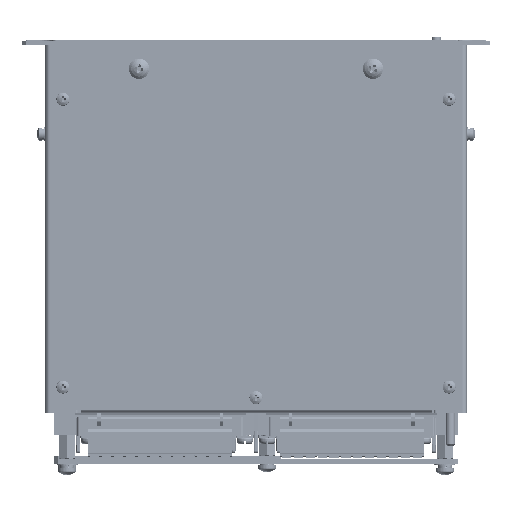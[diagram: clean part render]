
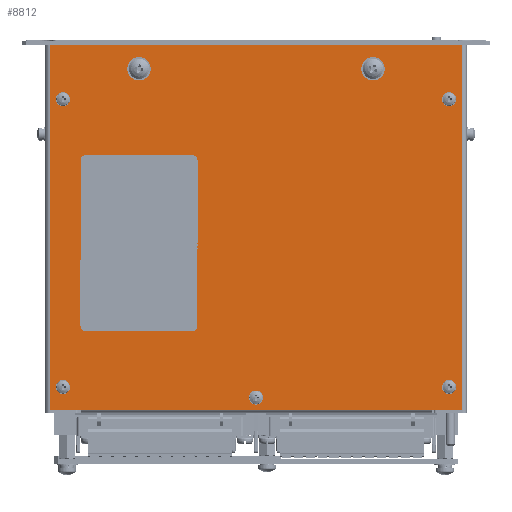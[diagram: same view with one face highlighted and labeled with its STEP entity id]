
A CAD part, left-side view. The second image highlights one B-rep face of the part: STEP entity #8812.
In plain terms, the highlighted planar face has unit normal (-1, 0, 0) as drawn and (0, 0, 1) by its records, which use the part's own axes.
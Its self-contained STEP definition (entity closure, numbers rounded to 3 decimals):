
#8812=ADVANCED_FACE('',(#284944,#284946,#284948,#284950,#284952,#284954,#284956,
#284958),#284960,.T.);
#284944=FACE_BOUND('',#284945,.T.);
#284945=EDGE_LOOP('',(#518910,#518911,#518912,#518913));
#284946=FACE_BOUND('',#284947,.T.);
#284947=EDGE_LOOP('',(#518914));
#284948=FACE_BOUND('',#284949,.T.);
#284949=EDGE_LOOP('',(#518915));
#284950=FACE_BOUND('',#284951,.T.);
#284951=EDGE_LOOP('',(#518916));
#284952=FACE_BOUND('',#284953,.T.);
#284953=EDGE_LOOP('',(#518917));
#284954=FACE_BOUND('',#284955,.T.);
#284955=EDGE_LOOP('',(#518918));
#284956=FACE_BOUND('',#284957,.T.);
#284957=EDGE_LOOP('',(#518919));
#284958=FACE_BOUND('',#284959,.T.);
#284959=EDGE_LOOP('',(#518920));
#284960=PLANE('',#284961);
#284961=AXIS2_PLACEMENT_3D('',#284962,#284963,#284964);
#284962=CARTESIAN_POINT('',(0.,0.,1.));
#284963=DIRECTION('',(0.,0.,1.));
#284964=DIRECTION('',(1.,0.,0.));
#518910=ORIENTED_EDGE('',*,*,#710000,.T.);
#518911=ORIENTED_EDGE('',*,*,#710001,.T.);
#518912=ORIENTED_EDGE('',*,*,#710002,.T.);
#518913=ORIENTED_EDGE('',*,*,#710003,.T.);
#518914=ORIENTED_EDGE('',*,*,#710004,.T.);
#518915=ORIENTED_EDGE('',*,*,#710005,.T.);
#518916=ORIENTED_EDGE('',*,*,#710006,.T.);
#518917=ORIENTED_EDGE('',*,*,#710007,.T.);
#518918=ORIENTED_EDGE('',*,*,#710008,.T.);
#518919=ORIENTED_EDGE('',*,*,#710009,.T.);
#518920=ORIENTED_EDGE('',*,*,#710010,.T.);
#710000=EDGE_CURVE('',#801376,#801377,#801378,.T.);
#710001=EDGE_CURVE('',#801377,#801379,#801380,.T.);
#710002=EDGE_CURVE('',#801379,#801381,#801382,.T.);
#710003=EDGE_CURVE('',#801381,#801376,#801383,.T.);
#710004=EDGE_CURVE('',#801384,#801384,#801385,.F.);
#710005=EDGE_CURVE('',#801386,#801386,#801387,.F.);
#710006=EDGE_CURVE('',#801388,#801388,#801389,.F.);
#710007=EDGE_CURVE('',#801390,#801390,#801391,.F.);
#710008=EDGE_CURVE('',#801392,#801392,#801393,.F.);
#710009=EDGE_CURVE('',#801394,#801394,#801395,.F.);
#710010=EDGE_CURVE('',#801396,#801396,#801397,.F.);
#801376=VERTEX_POINT('',#952565);
#801377=VERTEX_POINT('',#952566);
#801378=LINE('',#952567,#952568);
#801379=VERTEX_POINT('',#952570);
#801380=LINE('',#952571,#952572);
#801381=VERTEX_POINT('',#952574);
#801382=LINE('',#952575,#952576);
#801383=LINE('',#952578,#952579);
#801384=VERTEX_POINT('',#952581);
#801385=CIRCLE('',#952582,1.75);
#801386=VERTEX_POINT('',#952586);
#801387=CIRCLE('',#952587,2.25);
#801388=VERTEX_POINT('',#952591);
#801389=CIRCLE('',#952592,2.25);
#801390=VERTEX_POINT('',#952596);
#801391=CIRCLE('',#952597,1.75);
#801392=VERTEX_POINT('',#952601);
#801393=CIRCLE('',#952602,1.75);
#801394=VERTEX_POINT('',#952606);
#801395=CIRCLE('',#952607,1.75);
#801396=VERTEX_POINT('',#952611);
#801397=CIRCLE('',#952612,1.75);
#952565=CARTESIAN_POINT('',(78.,88.,1.));
#952566=CARTESIAN_POINT('',(-78.,88.,1.));
#952567=CARTESIAN_POINT('',(78.,88.,1.));
#952568=VECTOR('',#952569,1.);
#952569=DIRECTION('',(-1.,0.,0.));
#952570=CARTESIAN_POINT('',(-78.,-88.,1.));
#952571=CARTESIAN_POINT('',(-78.,88.,1.));
#952572=VECTOR('',#952573,1.);
#952573=DIRECTION('',(0.,-1.,0.));
#952574=CARTESIAN_POINT('',(78.,-88.,1.));
#952575=CARTESIAN_POINT('',(-78.,-88.,1.));
#952576=VECTOR('',#952577,1.);
#952577=DIRECTION('',(1.,0.,0.));
#952578=CARTESIAN_POINT('',(78.,-88.,1.));
#952579=VECTOR('',#952580,1.);
#952580=DIRECTION('',(0.,1.,0.));
#952581=CARTESIAN_POINT('',(74.25,0.,1.));
#952582=AXIS2_PLACEMENT_3D('',#952583,#952584,#952585);
#952583=CARTESIAN_POINT('',(72.5,0.,1.));
#952584=DIRECTION('',(0.,0.,1.));
#952585=DIRECTION('',(1.,0.,0.));
#952586=CARTESIAN_POINT('',(-65.75,50.,1.));
#952587=AXIS2_PLACEMENT_3D('',#952588,#952589,#952590);
#952588=CARTESIAN_POINT('',(-68.,50.,1.));
#952589=DIRECTION('',(0.,0.,1.));
#952590=DIRECTION('',(1.,0.,0.));
#952591=CARTESIAN_POINT('',(-65.75,-50.,1.));
#952592=AXIS2_PLACEMENT_3D('',#952593,#952594,#952595);
#952593=CARTESIAN_POINT('',(-68.,-50.,1.));
#952594=DIRECTION('',(0.,0.,1.));
#952595=DIRECTION('',(1.,0.,0.));
#952596=CARTESIAN_POINT('',(-53.25,82.5,1.));
#952597=AXIS2_PLACEMENT_3D('',#952598,#952599,#952600);
#952598=CARTESIAN_POINT('',(-55.,82.5,1.));
#952599=DIRECTION('',(0.,0.,1.));
#952600=DIRECTION('',(1.,0.,0.));
#952601=CARTESIAN_POINT('',(69.75,82.5,1.));
#952602=AXIS2_PLACEMENT_3D('',#952603,#952604,#952605);
#952603=CARTESIAN_POINT('',(68.,82.5,1.));
#952604=DIRECTION('',(0.,0.,1.));
#952605=DIRECTION('',(1.,0.,0.));
#952606=CARTESIAN_POINT('',(-53.25,-82.5,1.));
#952607=AXIS2_PLACEMENT_3D('',#952608,#952609,#952610);
#952608=CARTESIAN_POINT('',(-55.,-82.5,1.));
#952609=DIRECTION('',(0.,0.,1.));
#952610=DIRECTION('',(1.,0.,0.));
#952611=CARTESIAN_POINT('',(69.75,-82.5,1.));
#952612=AXIS2_PLACEMENT_3D('',#952613,#952614,#952615);
#952613=CARTESIAN_POINT('',(68.,-82.5,1.));
#952614=DIRECTION('',(0.,0.,1.));
#952615=DIRECTION('',(1.,0.,0.));
